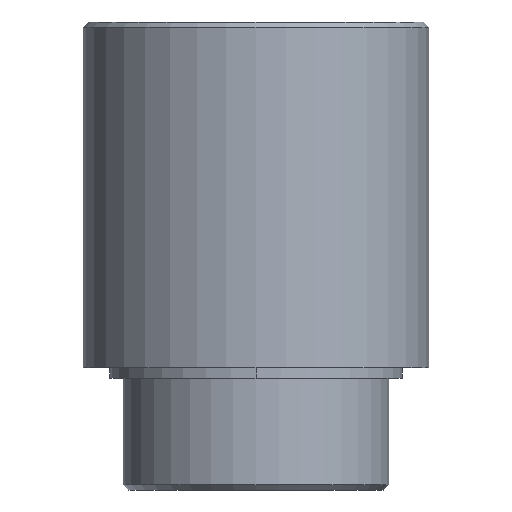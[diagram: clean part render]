
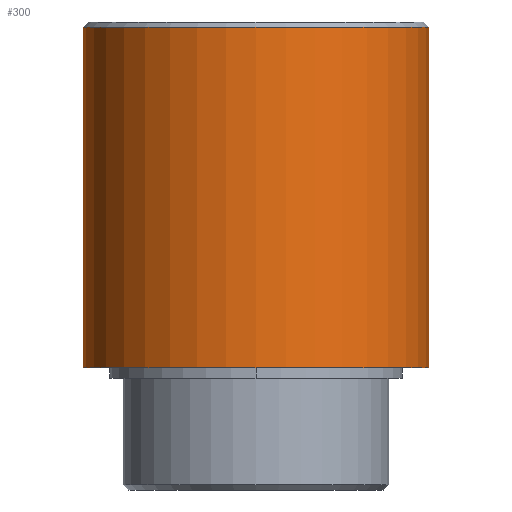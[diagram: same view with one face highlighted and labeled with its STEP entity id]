
A CAD part, front view. The second image highlights one B-rep face of the part: STEP entity #300.
In plain terms, the highlighted cylindrical face has radius 32.5 mm (diameter 65 mm), a partial arc.
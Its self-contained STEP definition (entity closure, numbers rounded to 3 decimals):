
#52=DIRECTION('',(0.,0.,-1.));
#53=VECTOR('',#52,64.);
#54=CARTESIAN_POINT('',(32.5,0.,-1.));
#55=LINE('',#54,#53);
#56=CARTESIAN_POINT('',(0.,0.,-1.));
#57=DIRECTION('',(0.,0.,1.));
#58=DIRECTION('',(-1.,0.,0.));
#59=AXIS2_PLACEMENT_3D('',#56,#57,#58);
#61=DIRECTION('',(0.,0.,-1.));
#62=VECTOR('',#61,64.);
#63=CARTESIAN_POINT('',(-32.5,0.,
-1.));
#64=LINE('',#63,#62);
#70=CARTESIAN_POINT('',(0.,0.,-65.));
#71=DIRECTION('',(0.,0.,1.));
#72=DIRECTION('',(-1.,0.,0.));
#73=AXIS2_PLACEMENT_3D('',#70,#71,#72);
#149=CARTESIAN_POINT('',(32.5,0.,-65.));
#150=CARTESIAN_POINT('',(-32.5,0.,-65.));
#151=VERTEX_POINT('',#149);
#152=VERTEX_POINT('',#150);
#177=CARTESIAN_POINT('',(-32.5,0.,-1.));
#178=CARTESIAN_POINT('',(32.5,0.,-1.));
#179=VERTEX_POINT('',#177);
#180=VERTEX_POINT('',#178);
#288=CARTESIAN_POINT('',(0.,0.,0.));
#289=DIRECTION('',(0.,0.,1.));
#290=DIRECTION('',(1.,0.,0.));
#291=AXIS2_PLACEMENT_3D('',#288,#289,#290);
#292=CYLINDRICAL_SURFACE('',#291,32.5);
#293=ORIENTED_EDGE('',*,*,#253,.T.);
#294=ORIENTED_EDGE('',*,*,#283,.T.);
#296=ORIENTED_EDGE('',*,*,#295,.F.);
#297=ORIENTED_EDGE('',*,*,#279,.F.);
#298=EDGE_LOOP('',(#293,#294,#296,#297));
#299=FACE_OUTER_BOUND('',#298,.F.);
#60=CIRCLE('',#59,32.5);
#74=CIRCLE('',#73,32.5);
#253=EDGE_CURVE('',#179,#180,#60,.T.);
#279=EDGE_CURVE('',#179,#152,#64,.T.);
#283=EDGE_CURVE('',#180,#151,#55,.T.);
#295=EDGE_CURVE('',#152,#151,#74,.T.);
#300=ADVANCED_FACE('',(#299),#292,.T.);
